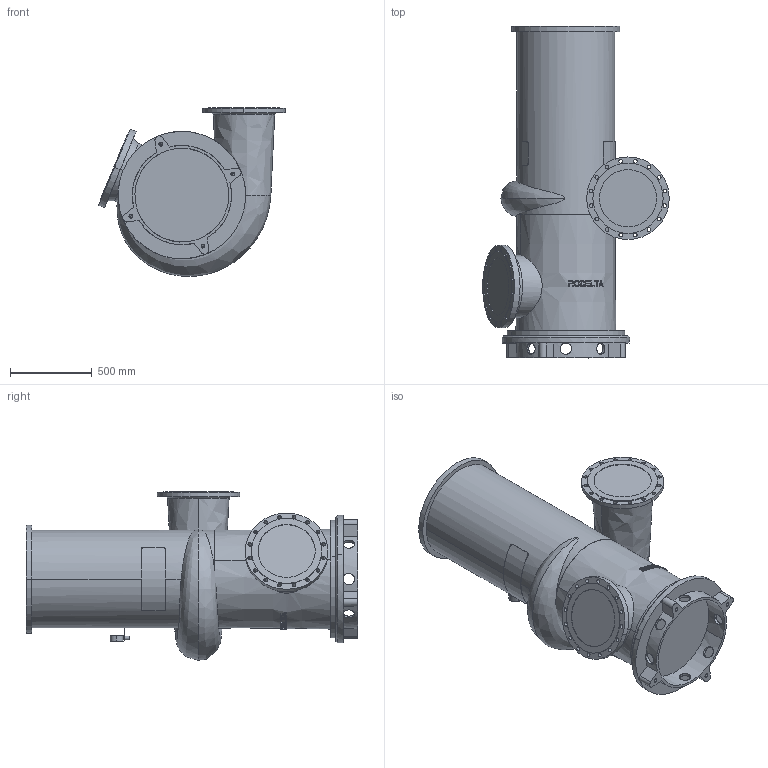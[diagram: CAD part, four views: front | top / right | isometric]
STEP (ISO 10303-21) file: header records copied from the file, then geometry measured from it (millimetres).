
FILE_DESCRIPTION((''),'2;1');
FILE_NAME('14-408_BLAD_ASM','2024-08-07T',('Lyritlocal'),(''),'PRO/ENGINEER BY PARAMETRIC TECHNOLOGY CORPORATION, 2016360','PRO/ENGINEER BY PARAMETRIC TECHNOLOGY CORPORATION, 2016360','');
FILE_SCHEMA(('CONFIG_CONTROL_DESIGN'));
Length unit declared in the file: millimetre
Products named in the file (3): 14-408; 14-408_VOET; 14-408_BLAD_ASM
Assembly tree (2 placements, depth 2):
  14-408_BLAD_ASM
    14-408
    14-408_VOET
Bounding box: 1141.18 x 2030 x 1032.23 mm (x, y, z)
Volume: 689139970.2 mm3; surface area: 7600964.2 mm2
Topology: 2 solids, 6 shells, 519 faces, 1412 edges, 930 vertices
Faces by surface type: plane 323, cylinder 154, cone 36, bspline 6
Entity records: 18592 total; most frequent: CARTESIAN_POINT 5752, ORIENTED_EDGE 2792, DIRECTION 2423, EDGE_CURVE 1404, AXIS2_PLACEMENT_3D 943, VERTEX_POINT 930, EDGE_LOOP 640, VECTOR 537
